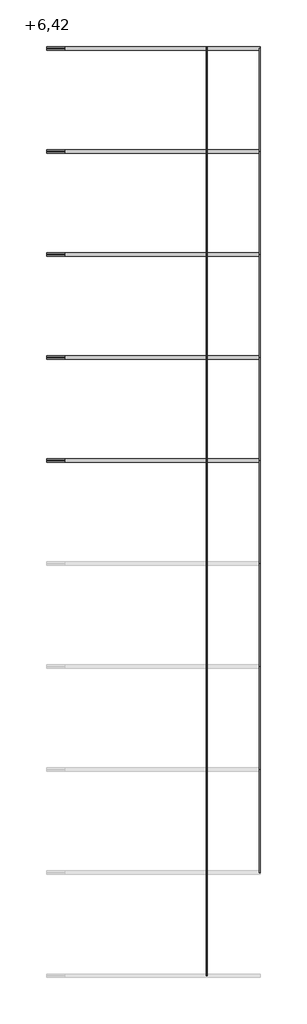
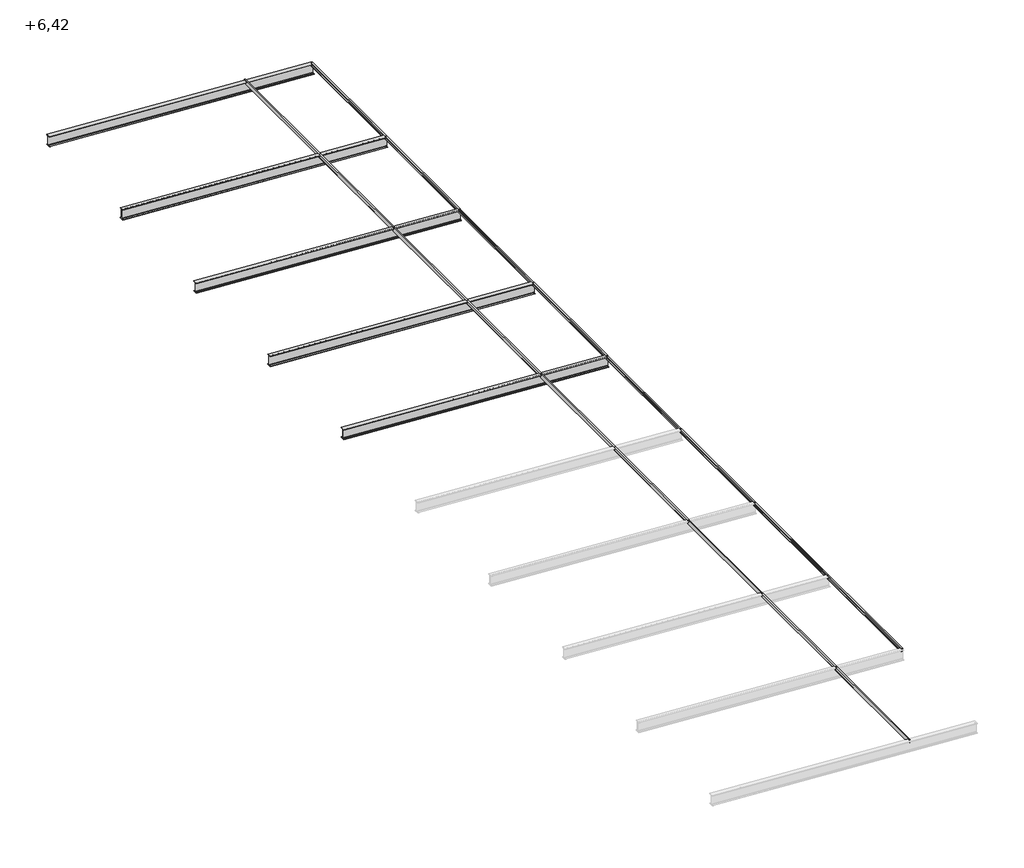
# One storey, part 2 of 2: 22 beams.
"""IFC4 building model written with IfcOpenShell, lengths in millimetres."""

from ifc_helpers import new_model, si_unit, frame, origin, place, context, project, spatial, polyline, ellipse_curve, transform, mapped, element, save
from ifc_brep_helpers import plane_surface, revolved_surface, advanced_brep
from components import c160_6856dfb5, c160_c7498115, c160_33551c21, c160_022745be

model = new_model("IFC4")

# Units and contexts
model_context = context("Model", 3, world=origin())
ifc_project = project(units=[si_unit("LENGTHUNIT", "METRE", prefix="MILLI")], contexts=[model_context])

# Site, building, storey
site = spatial("IfcSite", under=ifc_project)
building = spatial("IfcBuilding", under=site)
storey = spatial("IfcBuildingStorey", under=building, Name="+6,42", Elevation=6424.0)

# Beams
placement = place(None, origin())
c160_shape = c160_6856dfb5(model_context)
element("IfcBeam", 1, ObjectType="RPLN C - Ceowniki normalne : C160", at=placement, inside=storey, context=model_context, shape_type="MappedRepresentation", body=[
    mapped(c160_shape, transform((988.8581153, -33912.4816585, 7071.1642849), x_axis=(0.0, 1.0, 0.0), y_axis=(-0.9981748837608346, 0.0, 0.06038958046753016), z_axis=(0.06038958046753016, 0.0, 0.9981748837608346))),
])
c160_2_shape = c160_c7498115(model_context)
element("IfcBeam", 2, ObjectType="RPLN C - Ceowniki normalne : C160", at=placement, inside=storey, context=model_context, shape_type="MappedRepresentation", body=[
    mapped(c160_2_shape, transform((4109.7867288, 14087.5183415, 6882.3481038), x_axis=(0.0, -1.0, 0.0), y_axis=(0.9981748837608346, 0.0, -0.06038958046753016), z_axis=(0.06038958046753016, 0.0, 0.9981748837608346))),
])
element("IfcBeam", 3, ObjectType="RPLN C - Ceowniki normalne : C160", at=placement, inside=storey, context=model_context, shape_type="MappedRepresentation", body=[
    mapped(c160_shape, transform((988.8581153, -27912.4816585, 7071.1642849), x_axis=(0.0, 1.0, 0.0), y_axis=(-0.9981748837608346, 0.0, 0.06038958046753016), z_axis=(0.06038958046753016, 0.0, 0.9981748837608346))),
])
element("IfcBeam", 4, ObjectType="RPLN C - Ceowniki normalne : C160", at=placement, inside=storey, context=model_context, shape_type="MappedRepresentation", body=[
    mapped(c160_shape, transform((988.8581153, -21912.4816585, 7071.1642849), x_axis=(0.0, 1.0, 0.0), y_axis=(-0.9981748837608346, 0.0, 0.06038958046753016), z_axis=(0.06038958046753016, 0.0, 0.9981748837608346))),
])
element("IfcBeam", 5, ObjectType="RPLN C - Ceowniki normalne : C160", at=placement, inside=storey, context=model_context, shape_type="MappedRepresentation", body=[
    mapped(c160_shape, transform((988.8581153, -15912.4816585, 7071.1642849), x_axis=(0.0, 1.0, 0.0), y_axis=(-0.9981748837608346, 0.0, 0.06038958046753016), z_axis=(0.06038958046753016, 0.0, 0.9981748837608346))),
])
element("IfcBeam", 6, ObjectType="RPLN C - Ceowniki normalne : C160", at=placement, inside=storey, context=model_context, shape_type="MappedRepresentation", body=[
    mapped(c160_shape, transform((988.8581153, -9912.4816585, 7071.1642849), x_axis=(0.0, 1.0, 0.0), y_axis=(-0.9981748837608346, 0.0, 0.06038958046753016), z_axis=(0.06038958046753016, 0.0, 0.9981748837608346))),
])
element("IfcBeam", 7, ObjectType="RPLN C - Ceowniki normalne : C160", at=placement, inside=storey, context=model_context, shape_type="MappedRepresentation", body=[
    mapped(c160_shape, transform((988.8581153, -3912.4816585, 7071.1642849), x_axis=(0.0, 1.0, 0.0), y_axis=(-0.9981748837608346, 0.0, 0.06038958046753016), z_axis=(0.06038958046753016, 0.0, 0.9981748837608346))),
])
element("IfcBeam", 8, ObjectType="RPLN C - Ceowniki normalne : C160", at=placement, inside=storey, context=model_context, shape_type="MappedRepresentation", body=[
    mapped(c160_shape, transform((988.8581153, 2087.5183415, 7071.1642849), x_axis=(0.0, 1.0, 0.0), y_axis=(-0.9981748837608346, 0.0, 0.06038958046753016), z_axis=(0.06038958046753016, 0.0, 0.9981748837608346))),
])
element("IfcBeam", 9, ObjectType="RPLN C - Ceowniki normalne : C160", at=placement, inside=storey, context=model_context, shape_type="MappedRepresentation", body=[
    mapped(c160_shape, transform((988.8581153, 8087.5183415, 7071.1642849), x_axis=(0.0, 1.0, 0.0), y_axis=(-0.9981748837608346, 0.0, 0.06038958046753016), z_axis=(0.06038958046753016, 0.0, 0.9981748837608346))),
])
c160_3_shape = c160_33551c21(model_context)
element("IfcBeam", 10, ObjectType="RPLN C - Ceowniki normalne : C160", at=placement, inside=storey, context=model_context, shape_type="MappedRepresentation", body=[
    mapped(c160_3_shape, transform((4109.7867288, -27912.4816585, 6882.3481038), x_axis=(0.0, -1.0, 0.0), y_axis=(0.9981748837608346, 0.0, -0.06038958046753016), z_axis=(0.06038958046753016, 0.0, 0.9981748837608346))),
])
element("IfcBeam", 11, ObjectType="RPLN C - Ceowniki normalne : C160", at=placement, inside=storey, context=model_context, shape_type="MappedRepresentation", body=[
    mapped(c160_3_shape, transform((4109.7867288, -21912.4816585, 6882.3481038), x_axis=(0.0, -1.0, 0.0), y_axis=(0.9981748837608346, 0.0, -0.06038958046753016), z_axis=(0.06038958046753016, 0.0, 0.9981748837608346))),
])
element("IfcBeam", 12, ObjectType="RPLN C - Ceowniki normalne : C160", at=placement, inside=storey, context=model_context, shape_type="MappedRepresentation", body=[
    mapped(c160_3_shape, transform((4109.7867288, -15912.4816585, 6882.3481038), x_axis=(0.0, -1.0, 0.0), y_axis=(0.9981748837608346, 0.0, -0.06038958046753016), z_axis=(0.06038958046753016, 0.0, 0.9981748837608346))),
])
element("IfcBeam", 13, ObjectType="RPLN C - Ceowniki normalne : C160", at=placement, inside=storey, context=model_context, shape_type="MappedRepresentation", body=[
    mapped(c160_3_shape, transform((4109.7867288, -9912.4816585, 6882.3481038), x_axis=(0.0, -1.0, 0.0), y_axis=(0.9981748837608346, 0.0, -0.06038958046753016), z_axis=(0.06038958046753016, 0.0, 0.9981748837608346))),
])
element("IfcBeam", 14, ObjectType="RPLN C - Ceowniki normalne : C160", at=placement, inside=storey, context=model_context, shape_type="MappedRepresentation", body=[
    mapped(c160_3_shape, transform((4109.7867288, -3912.4816585, 6882.3481038), x_axis=(0.0, -1.0, 0.0), y_axis=(0.9981748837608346, 0.0, -0.06038958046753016), z_axis=(0.06038958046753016, 0.0, 0.9981748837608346))),
])
element("IfcBeam", 15, ObjectType="RPLN C - Ceowniki normalne : C160", at=placement, inside=storey, context=model_context, shape_type="MappedRepresentation", body=[
    mapped(c160_3_shape, transform((4109.7867288, 2087.5183415, 6882.3481038), x_axis=(0.0, -1.0, 0.0), y_axis=(0.9981748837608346, 0.0, -0.06038958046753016), z_axis=(0.06038958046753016, 0.0, 0.9981748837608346))),
])
element("IfcBeam", 16, ObjectType="RPLN C - Ceowniki normalne : C160", at=placement, inside=storey, context=model_context, shape_type="MappedRepresentation", body=[
    mapped(c160_3_shape, transform((4109.7867288, 8087.5183415, 6882.3481038), x_axis=(0.0, -1.0, 0.0), y_axis=(0.9981748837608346, 0.0, -0.06038958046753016), z_axis=(0.06038958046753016, 0.0, 0.9981748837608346))),
])
c160_4_shape = c160_022745be(model_context)
element("IfcBeam", 17, ObjectType="RPLN C - Ceowniki normalne : C160", at=placement, inside=storey, context=model_context, shape_type="MappedRepresentation", body=[
    mapped(c160_4_shape, transform((988.8581153, 14087.5183415, 7071.1642849), x_axis=(0.0, 1.0, 0.0), y_axis=(-0.9981748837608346, 0.0, 0.06038958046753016), z_axis=(0.06038958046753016, 0.0, 0.9981748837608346))),
])
element("IfcBeam", 18, ObjectType="RPLN IPE - Dwuteowniki równoległościenne : I500PE", at=placement, inside=storey, context=model_context, shape_type="AdvancedBrep", body=[
    advanced_brep(
    [(-8321.7766659, -6886.3816585, 7205.3745626), (-8321.7766659, -6812.4816585, 7205.3745626), (-8321.7740086, -6812.4816585, 7189.3451466), (-8321.7740086, -7012.4816585, 7189.3451466), (-8321.7766659, -7012.4816585, 7205.3745626), (-8321.7766659, -6938.5816585, 7205.3745626), (-8321.7801535, -6917.5816585, 7226.4131711), (-8321.8509032, -6917.5816585, 7653.1963726), (-8321.8543908, -6938.5816585, 7674.2349812), (-8321.8543908, -7012.4816585, 7674.2349812), (-8321.8570481, -7012.4816585, 7690.2643972), (-8321.8570481, -6812.4816585, 7690.2643972), (-8321.8543908, -6812.4816585, 7674.2349812), (-8321.8543908, -6886.3816585, 7674.2349812), (-8321.8509032, -6907.3816585, 7653.1963726), (-8321.7801535, -6907.3816585, 7226.4131711), (4132.9926321, -6812.4816585, 6451.8610201), (4132.9926321, -6886.3816585, 6451.8610201), (4132.9926321, -6907.3816585, 6472.8994176), (4132.9926321, -6907.3816585, 6899.6783387), (4132.9926321, -6886.3816585, 6920.7167363), (4132.9926321, -6812.4816585, 6920.7167363), (4132.9926321, -6812.4816585, 6936.7459915), (4132.9926321, -7012.4816585, 6936.7459915), (4132.9926321, -7012.4816585, 6920.7167363), (4132.9926321, -6938.5816585, 6920.7167363), (4132.9926321, -6917.5816585, 6899.6783387), (4132.9926321, -6917.5816585, 6472.8994176), (4132.9926321, -6938.5816585, 6451.8610201), (4132.9926321, -7012.4816585, 6451.8610201), (4132.9926321, -7012.4816585, 6435.8317648), (4132.9926321, -6812.4816585, 6435.8317648)],
    [
        (0, 1),
        (1, 2),
        (2, 3),
        (3, 4),
        (4, 5),
        (5, 6, ellipse_curve(frame((-8321.7801535, -6938.5816585, 7226.4131711), z_axis=(0.9999999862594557, 0.0, 0.0001657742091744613), x_axis=(-0.00016577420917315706, 0.0, 0.9999999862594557)), 21.0386088, 21.0)),
        (6, 7),
        (7, 8, ellipse_curve(frame((-8321.8509032, -6938.5816585, 7653.1963726), z_axis=(0.9999999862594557, 0.0, 0.0001657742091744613), x_axis=(-0.00016577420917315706, 0.0, 0.9999999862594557)), 21.0386088, 21.0)),
        (8, 9),
        (9, 10),
        (10, 11),
        (11, 12),
        (12, 13),
        (13, 14, ellipse_curve(frame((-8321.8509032, -6886.3816585, 7653.1963726), z_axis=(0.9999999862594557, 0.0, 0.0001657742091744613), x_axis=(-0.00016577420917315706, 0.0, 0.9999999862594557)), 21.0386088, 21.0)),
        (14, 15),
        (15, 0, ellipse_curve(frame((-8321.7801535, -6886.3816585, 7226.4131711), z_axis=(0.9999999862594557, 0.0, 0.0001657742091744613), x_axis=(-0.00016577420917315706, 0.0, 0.9999999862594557)), 21.0386088, 21.0)),
        (16, 17),
        (17, 18, ellipse_curve(frame((4132.9926321, -6886.3816585, 6472.8994176), z_axis=(-1.0, 0.0, 0.0), x_axis=(0.0, 0.0, 0.9999999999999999)), 21.0383975, 21.0)),
        (18, 19),
        (19, 20, ellipse_curve(frame((4132.9926321, -6886.3816585, 6899.6783387), z_axis=(-1.0, 0.0, 0.0), x_axis=(0.0, 0.0, 0.9999999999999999)), 21.0383975, 21.0)),
        (20, 21),
        (21, 22),
        (22, 23),
        (23, 24),
        (24, 25),
        (25, 26, ellipse_curve(frame((4132.9926321, -6938.5816585, 6899.6783387), z_axis=(-1.0, 0.0, 0.0), x_axis=(0.0, 0.0, 0.9999999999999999)), 21.0383975, 21.0)),
        (26, 27),
        (27, 28, ellipse_curve(frame((4132.9926321, -6938.5816585, 6472.8994176), z_axis=(-1.0, 0.0, 0.0), x_axis=(0.0, 0.0, 0.9999999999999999)), 21.0383975, 21.0)),
        (28, 29),
        (29, 30),
        (30, 31),
        (31, 16),
        (16, 1),
        (0, 17),
        (31, 2),
        (30, 3),
        (29, 4),
        (28, 5),
        (27, 6),
        (26, 7),
        (25, 8),
        (24, 9),
        (23, 10),
        (22, 11),
        (21, 12),
        (20, 13),
        (19, 14),
        (18, 15),
    ],
    [
        plane_surface(frame((-8321.6398386, -36912.4816585, 6379.9913475), z_axis=(-0.9999999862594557, 0.0, -0.0001657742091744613), x_axis=(0.0001657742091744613, 0.0, -0.9999999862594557))),
        plane_surface(frame((4132.9926321, -36912.4816585, 6983.0025864), z_axis=(1.0, 0.0, 0.0), x_axis=(0.0, 0.0, 1.0))),
        plane_surface(frame((4227.795571, -6812.4816585, 6446.1254423), z_axis=(0.06038958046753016, 0.0, 0.9981748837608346), x_axis=(-0.9981748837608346, 0.0, 0.06038958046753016))),
        plane_surface(frame((4226.8293377, -6812.4816585, 6430.1546441), z_axis=(0.0, 1.0, 0.0), x_axis=(-0.9981748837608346, 0.0, 0.06038958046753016))),
        plane_surface(frame((4226.8293377, -7012.4816585, 6430.1546441), z_axis=(-0.06038958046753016, 0.0, -0.9981748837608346), x_axis=(-0.9981748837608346, 0.0, 0.06038958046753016))),
        plane_surface(frame((4227.795571, -7012.4816585, 6446.1254423), z_axis=(0.0, -1.0, 0.0), x_axis=(-0.9981748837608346, 0.0, 0.06038958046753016))),
        plane_surface(frame((4227.795571, -6938.5816585, 6446.1254423), z_axis=(0.06038958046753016, 0.0, 0.9981748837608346), x_axis=(-0.9981748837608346, 0.0, 0.06038958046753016))),
        revolved_surface(polyline([(-8323.051822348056, -6959.5816585, 7226.490107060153), (4134.260813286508, -6959.5816585, 6472.822692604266)]), (4229.0637522, -6938.5816585, 6467.0871148), (-0.9981748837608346, 0.0, 0.06038958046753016)),
        plane_surface(frame((4254.7897134, -6917.5816585, 6892.3096153), z_axis=(0.0, -1.0, 0.0), x_axis=(-0.9981748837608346, 0.0, 0.06038958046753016))),
        revolved_surface(polyline([(-8323.122572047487, -6959.5816585, 7653.273308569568), (4134.260813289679, -6959.5816585, 6899.601613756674)]), (4254.7897134, -6938.5816585, 6892.3096153), (-0.9981748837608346, 0.0, 0.06038958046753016)),
        plane_surface(frame((4256.0578946, -7012.4816585, 6913.2712879), z_axis=(-0.06038958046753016, 0.0, -0.9981748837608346), x_axis=(-0.9981748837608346, 0.0, 0.06038958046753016))),
        plane_surface(frame((4257.0241279, -7012.4816585, 6929.242086), z_axis=(0.0, -1.0, 0.0), x_axis=(-0.9981748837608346, 0.0, 0.06038958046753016))),
        plane_surface(frame((4257.0241279, -6812.4816585, 6929.242086), z_axis=(0.06038958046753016, 0.0, 0.9981748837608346), x_axis=(-0.9981748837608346, 0.0, 0.06038958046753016))),
        plane_surface(frame((4256.0578946, -6812.4816585, 6913.2712879), z_axis=(0.0, 1.0, 0.0), x_axis=(-0.9981748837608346, 0.0, 0.06038958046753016))),
        plane_surface(frame((4256.0578946, -6886.3816585, 6913.2712879), z_axis=(-0.06038958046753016, 0.0, -0.9981748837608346), x_axis=(-0.9981748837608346, 0.0, 0.06038958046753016))),
        revolved_surface(polyline([(-8323.122572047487, -6907.3816585, 7653.273308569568), (4134.260813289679, -6907.3816585, 6899.601613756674)]), (4254.7897134, -6886.3816585, 6892.3096153), (-0.9981748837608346, 0.0, 0.06038958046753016)),
        plane_surface(frame((4229.0637522, -6907.3816585, 6467.0871148), z_axis=(0.0, 1.0, 0.0), x_axis=(-0.9981748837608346, 0.0, 0.06038958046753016))),
        revolved_surface(polyline([(-8323.051822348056, -6907.3816585, 7226.490107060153), (4134.260813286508, -6907.3816585, 6472.822692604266)]), (4229.0637522, -6886.3816585, 6467.0871148), (-0.9981748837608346, 0.0, 0.06038958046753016)),
    ],
    [
        (0, [[1, 2, 3, 4, 5, 6, 7, 8, 9, 10, 11, 12, 13, 14, 15, 16]]),
        (1, [[17, 18, 19, 20, 21, 22, 23, 24, 25, 26, 27, 28, 29, 30, 31, 32]]),
        (2, [[33, -1, 34, -17]]),
        (3, [[35, -2, -33, -32]]),
        (4, [[36, -3, -35, -31]]),
        (5, [[37, -4, -36, -30]]),
        (6, [[38, -5, -37, -29]]),
        (7, [[39, -6, -38, -28]]),
        (8, [[40, -7, -39, -27]]),
        (9, [[41, -8, -40, -26]]),
        (10, [[42, -9, -41, -25]]),
        (11, [[43, -10, -42, -24]]),
        (12, [[44, -11, -43, -23]]),
        (13, [[45, -12, -44, -22]]),
        (14, [[46, -13, -45, -21]]),
        (15, [[47, -14, -46, -20]]),
        (16, [[48, -15, -47, -19]]),
        (17, [[-34, -16, -48, -18]]),
    ],
),
])
element("IfcBeam", 19, ObjectType="RPLN IPE - Dwuteowniki równoległościenne : I500PE", at=placement, inside=storey, context=model_context, shape_type="AdvancedBrep", body=[
    advanced_brep(
    [(-8321.7766659, -886.3816585, 7205.3745626), (-8321.7766659, -812.4816585, 7205.3745626), (-8321.7740086, -812.4816585, 7189.3451466), (-8321.7740086, -1012.4816585, 7189.3451466), (-8321.7766659, -1012.4816585, 7205.3745626), (-8321.7766659, -938.5816585, 7205.3745626), (-8321.7801535, -917.5816585, 7226.4131711), (-8321.8509032, -917.5816585, 7653.1963726), (-8321.8543908, -938.5816585, 7674.2349812), (-8321.8543908, -1012.4816585, 7674.2349812), (-8321.8570481, -1012.4816585, 7690.2643972), (-8321.8570481, -812.4816585, 7690.2643972), (-8321.8543908, -812.4816585, 7674.2349812), (-8321.8543908, -886.3816585, 7674.2349812), (-8321.8509032, -907.3816585, 7653.1963726), (-8321.7801535, -907.3816585, 7226.4131711), (4132.9926321, -812.4816585, 6451.8610201), (4132.9926321, -886.3816585, 6451.8610201), (4132.9926321, -907.3816585, 6472.8994176), (4132.9926321, -907.3816585, 6899.6783387), (4132.9926321, -886.3816585, 6920.7167363), (4132.9926321, -812.4816585, 6920.7167363), (4132.9926321, -812.4816585, 6936.7459915), (4132.9926321, -1012.4816585, 6936.7459915), (4132.9926321, -1012.4816585, 6920.7167363), (4132.9926321, -938.5816585, 6920.7167363), (4132.9926321, -917.5816585, 6899.6783387), (4132.9926321, -917.5816585, 6472.8994176), (4132.9926321, -938.5816585, 6451.8610201), (4132.9926321, -1012.4816585, 6451.8610201), (4132.9926321, -1012.4816585, 6435.8317648), (4132.9926321, -812.4816585, 6435.8317648)],
    [
        (0, 1),
        (1, 2),
        (2, 3),
        (3, 4),
        (4, 5),
        (5, 6, ellipse_curve(frame((-8321.7801535, -938.5816585, 7226.4131711), z_axis=(0.9999999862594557, 0.0, 0.0001657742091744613), x_axis=(-0.00016577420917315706, 0.0, 0.9999999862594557)), 21.0386088, 21.0)),
        (6, 7),
        (7, 8, ellipse_curve(frame((-8321.8509032, -938.5816585, 7653.1963726), z_axis=(0.9999999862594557, 0.0, 0.0001657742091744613), x_axis=(-0.00016577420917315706, 0.0, 0.9999999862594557)), 21.0386088, 21.0)),
        (8, 9),
        (9, 10),
        (10, 11),
        (11, 12),
        (12, 13),
        (13, 14, ellipse_curve(frame((-8321.8509032, -886.3816585, 7653.1963726), z_axis=(0.9999999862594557, 0.0, 0.0001657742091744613), x_axis=(-0.00016577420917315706, 0.0, 0.9999999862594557)), 21.0386088, 21.0)),
        (14, 15),
        (15, 0, ellipse_curve(frame((-8321.7801535, -886.3816585, 7226.4131711), z_axis=(0.9999999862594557, 0.0, 0.0001657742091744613), x_axis=(-0.00016577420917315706, 0.0, 0.9999999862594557)), 21.0386088, 21.0)),
        (16, 17),
        (17, 18, ellipse_curve(frame((4132.9926321, -886.3816585, 6472.8994176), z_axis=(-1.0, 0.0, 0.0), x_axis=(0.0, 0.0, 0.9999999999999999)), 21.0383975, 21.0)),
        (18, 19),
        (19, 20, ellipse_curve(frame((4132.9926321, -886.3816585, 6899.6783387), z_axis=(-1.0, 0.0, 0.0), x_axis=(0.0, 0.0, 0.9999999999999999)), 21.0383975, 21.0)),
        (20, 21),
        (21, 22),
        (22, 23),
        (23, 24),
        (24, 25),
        (25, 26, ellipse_curve(frame((4132.9926321, -938.5816585, 6899.6783387), z_axis=(-1.0, 0.0, 0.0), x_axis=(0.0, 0.0, 0.9999999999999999)), 21.0383975, 21.0)),
        (26, 27),
        (27, 28, ellipse_curve(frame((4132.9926321, -938.5816585, 6472.8994176), z_axis=(-1.0, 0.0, 0.0), x_axis=(0.0, 0.0, 0.9999999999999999)), 21.0383975, 21.0)),
        (28, 29),
        (29, 30),
        (30, 31),
        (31, 16),
        (16, 1),
        (0, 17),
        (31, 2),
        (30, 3),
        (29, 4),
        (28, 5),
        (27, 6),
        (26, 7),
        (25, 8),
        (24, 9),
        (23, 10),
        (22, 11),
        (21, 12),
        (20, 13),
        (19, 14),
        (18, 15),
    ],
    [
        plane_surface(frame((-8321.6398386, -36912.4816585, 6379.9913475), z_axis=(-0.9999999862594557, 0.0, -0.0001657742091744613), x_axis=(0.0001657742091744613, 0.0, -0.9999999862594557))),
        plane_surface(frame((4132.9926321, -36912.4816585, 6983.0025864), z_axis=(1.0, 0.0, 0.0), x_axis=(0.0, 0.0, 1.0))),
        plane_surface(frame((4227.795571, -812.4816585, 6446.1254423), z_axis=(0.06038958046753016, 0.0, 0.9981748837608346), x_axis=(-0.9981748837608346, 0.0, 0.06038958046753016))),
        plane_surface(frame((4226.8293377, -812.4816585, 6430.1546441), z_axis=(0.0, 1.0, 0.0), x_axis=(-0.9981748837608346, 0.0, 0.06038958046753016))),
        plane_surface(frame((4226.8293377, -1012.4816585, 6430.1546441), z_axis=(-0.06038958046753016, 0.0, -0.9981748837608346), x_axis=(-0.9981748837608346, 0.0, 0.06038958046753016))),
        plane_surface(frame((4227.795571, -1012.4816585, 6446.1254423), z_axis=(0.0, -1.0, 0.0), x_axis=(-0.9981748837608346, 0.0, 0.06038958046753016))),
        plane_surface(frame((4227.795571, -938.5816585, 6446.1254423), z_axis=(0.06038958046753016, 0.0, 0.9981748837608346), x_axis=(-0.9981748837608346, 0.0, 0.06038958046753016))),
        revolved_surface(polyline([(-8323.051822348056, -959.5816585, 7226.490107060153), (4134.260813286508, -959.5816585, 6472.822692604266)]), (4229.0637522, -938.5816585, 6467.0871148), (-0.9981748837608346, 0.0, 0.06038958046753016)),
        plane_surface(frame((4254.7897134, -917.5816585, 6892.3096153), z_axis=(0.0, -1.0, 0.0), x_axis=(-0.9981748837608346, 0.0, 0.06038958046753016))),
        revolved_surface(polyline([(-8323.122572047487, -959.5816585, 7653.273308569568), (4134.260813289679, -959.5816585, 6899.601613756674)]), (4254.7897134, -938.5816585, 6892.3096153), (-0.9981748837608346, 0.0, 0.06038958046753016)),
        plane_surface(frame((4256.0578946, -1012.4816585, 6913.2712879), z_axis=(-0.06038958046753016, 0.0, -0.9981748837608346), x_axis=(-0.9981748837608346, 0.0, 0.06038958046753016))),
        plane_surface(frame((4257.0241279, -1012.4816585, 6929.242086), z_axis=(0.0, -1.0, 0.0), x_axis=(-0.9981748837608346, 0.0, 0.06038958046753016))),
        plane_surface(frame((4257.0241279, -812.4816585, 6929.242086), z_axis=(0.06038958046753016, 0.0, 0.9981748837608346), x_axis=(-0.9981748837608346, 0.0, 0.06038958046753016))),
        plane_surface(frame((4256.0578946, -812.4816585, 6913.2712879), z_axis=(0.0, 1.0, 0.0), x_axis=(-0.9981748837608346, 0.0, 0.06038958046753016))),
        plane_surface(frame((4256.0578946, -886.3816585, 6913.2712879), z_axis=(-0.06038958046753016, 0.0, -0.9981748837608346), x_axis=(-0.9981748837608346, 0.0, 0.06038958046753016))),
        revolved_surface(polyline([(-8323.122572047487, -907.3816585, 7653.273308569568), (4134.260813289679, -907.3816585, 6899.601613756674)]), (4254.7897134, -886.3816585, 6892.3096153), (-0.9981748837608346, 0.0, 0.06038958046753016)),
        plane_surface(frame((4229.0637522, -907.3816585, 6467.0871148), z_axis=(0.0, 1.0, 0.0), x_axis=(-0.9981748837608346, 0.0, 0.06038958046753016))),
        revolved_surface(polyline([(-8323.051822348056, -907.3816585, 7226.490107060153), (4134.260813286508, -907.3816585, 6472.822692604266)]), (4229.0637522, -886.3816585, 6467.0871148), (-0.9981748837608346, 0.0, 0.06038958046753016)),
    ],
    [
        (0, [[1, 2, 3, 4, 5, 6, 7, 8, 9, 10, 11, 12, 13, 14, 15, 16]]),
        (1, [[17, 18, 19, 20, 21, 22, 23, 24, 25, 26, 27, 28, 29, 30, 31, 32]]),
        (2, [[33, -1, 34, -17]]),
        (3, [[35, -2, -33, -32]]),
        (4, [[36, -3, -35, -31]]),
        (5, [[37, -4, -36, -30]]),
        (6, [[38, -5, -37, -29]]),
        (7, [[39, -6, -38, -28]]),
        (8, [[40, -7, -39, -27]]),
        (9, [[41, -8, -40, -26]]),
        (10, [[42, -9, -41, -25]]),
        (11, [[43, -10, -42, -24]]),
        (12, [[44, -11, -43, -23]]),
        (13, [[45, -12, -44, -22]]),
        (14, [[46, -13, -45, -21]]),
        (15, [[47, -14, -46, -20]]),
        (16, [[48, -15, -47, -19]]),
        (17, [[-34, -16, -48, -18]]),
    ],
),
])
element("IfcBeam", 20, ObjectType="RPLN IPE - Dwuteowniki równoległościenne : I500PE", at=placement, inside=storey, context=model_context, shape_type="AdvancedBrep", body=[
    advanced_brep(
    [(-8321.7766659, 5113.6183415, 7205.3745626), (-8321.7766659, 5187.5183415, 7205.3745626), (-8321.7740086, 5187.5183415, 7189.3451466), (-8321.7740086, 4987.5183415, 7189.3451466), (-8321.7766659, 4987.5183415, 7205.3745626), (-8321.7766659, 5061.4183415, 7205.3745626), (-8321.7801535, 5082.4183415, 7226.4131711), (-8321.8509032, 5082.4183415, 7653.1963726), (-8321.8543908, 5061.4183415, 7674.2349812), (-8321.8543908, 4987.5183415, 7674.2349812), (-8321.8570481, 4987.5183415, 7690.2643972), (-8321.8570481, 5187.5183415, 7690.2643972), (-8321.8543908, 5187.5183415, 7674.2349812), (-8321.8543908, 5113.6183415, 7674.2349812), (-8321.8509032, 5092.6183415, 7653.1963726), (-8321.7801535, 5092.6183415, 7226.4131711), (4132.9926321, 5187.5183415, 6451.8610201), (4132.9926321, 5113.6183415, 6451.8610201), (4132.9926321, 5092.6183415, 6472.8994176), (4132.9926321, 5092.6183415, 6899.6783387), (4132.9926321, 5113.6183415, 6920.7167363), (4132.9926321, 5187.5183415, 6920.7167363), (4132.9926321, 5187.5183415, 6936.7459915), (4132.9926321, 4987.5183415, 6936.7459915), (4132.9926321, 4987.5183415, 6920.7167363), (4132.9926321, 5061.4183415, 6920.7167363), (4132.9926321, 5082.4183415, 6899.6783387), (4132.9926321, 5082.4183415, 6472.8994176), (4132.9926321, 5061.4183415, 6451.8610201), (4132.9926321, 4987.5183415, 6451.8610201), (4132.9926321, 4987.5183415, 6435.8317648), (4132.9926321, 5187.5183415, 6435.8317648)],
    [
        (0, 1),
        (1, 2),
        (2, 3),
        (3, 4),
        (4, 5),
        (5, 6, ellipse_curve(frame((-8321.7801535, 5061.4183415, 7226.4131711), z_axis=(0.9999999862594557, 0.0, 0.0001657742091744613), x_axis=(-0.00016577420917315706, 0.0, 0.9999999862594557)), 21.0386088, 21.0)),
        (6, 7),
        (7, 8, ellipse_curve(frame((-8321.8509032, 5061.4183415, 7653.1963726), z_axis=(0.9999999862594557, 0.0, 0.0001657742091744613), x_axis=(-0.00016577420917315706, 0.0, 0.9999999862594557)), 21.0386088, 21.0)),
        (8, 9),
        (9, 10),
        (10, 11),
        (11, 12),
        (12, 13),
        (13, 14, ellipse_curve(frame((-8321.8509032, 5113.6183415, 7653.1963726), z_axis=(0.9999999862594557, 0.0, 0.0001657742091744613), x_axis=(-0.00016577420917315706, 0.0, 0.9999999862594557)), 21.0386088, 21.0)),
        (14, 15),
        (15, 0, ellipse_curve(frame((-8321.7801535, 5113.6183415, 7226.4131711), z_axis=(0.9999999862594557, 0.0, 0.0001657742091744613), x_axis=(-0.00016577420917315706, 0.0, 0.9999999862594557)), 21.0386088, 21.0)),
        (16, 17),
        (17, 18, ellipse_curve(frame((4132.9926321, 5113.6183415, 6472.8994176), z_axis=(-1.0, 0.0, 0.0), x_axis=(0.0, 0.0, 0.9999999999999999)), 21.0383975, 21.0)),
        (18, 19),
        (19, 20, ellipse_curve(frame((4132.9926321, 5113.6183415, 6899.6783387), z_axis=(-1.0, 0.0, 0.0), x_axis=(0.0, 0.0, 0.9999999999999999)), 21.0383975, 21.0)),
        (20, 21),
        (21, 22),
        (22, 23),
        (23, 24),
        (24, 25),
        (25, 26, ellipse_curve(frame((4132.9926321, 5061.4183415, 6899.6783387), z_axis=(-1.0, 0.0, 0.0), x_axis=(0.0, 0.0, 0.9999999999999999)), 21.0383975, 21.0)),
        (26, 27),
        (27, 28, ellipse_curve(frame((4132.9926321, 5061.4183415, 6472.8994176), z_axis=(-1.0, 0.0, 0.0), x_axis=(0.0, 0.0, 0.9999999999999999)), 21.0383975, 21.0)),
        (28, 29),
        (29, 30),
        (30, 31),
        (31, 16),
        (16, 1),
        (0, 17),
        (31, 2),
        (30, 3),
        (29, 4),
        (28, 5),
        (27, 6),
        (26, 7),
        (25, 8),
        (24, 9),
        (23, 10),
        (22, 11),
        (21, 12),
        (20, 13),
        (19, 14),
        (18, 15),
    ],
    [
        plane_surface(frame((-8321.6398386, -36912.4816585, 6379.9913475), z_axis=(-0.9999999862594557, 0.0, -0.0001657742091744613), x_axis=(0.0001657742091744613, 0.0, -0.9999999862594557))),
        plane_surface(frame((4132.9926321, -36912.4816585, 6983.0025864), z_axis=(1.0, 0.0, 0.0), x_axis=(0.0, 0.0, 1.0))),
        plane_surface(frame((4227.795571, 5187.5183415, 6446.1254423), z_axis=(0.06038958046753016, 0.0, 0.9981748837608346), x_axis=(-0.9981748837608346, 0.0, 0.06038958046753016))),
        plane_surface(frame((4226.8293377, 5187.5183415, 6430.1546441), z_axis=(0.0, 1.0, 0.0), x_axis=(-0.9981748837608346, 0.0, 0.06038958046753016))),
        plane_surface(frame((4226.8293377, 4987.5183415, 6430.1546441), z_axis=(-0.06038958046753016, 0.0, -0.9981748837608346), x_axis=(-0.9981748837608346, 0.0, 0.06038958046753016))),
        plane_surface(frame((4227.795571, 4987.5183415, 6446.1254423), z_axis=(0.0, -1.0, 0.0), x_axis=(-0.9981748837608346, 0.0, 0.06038958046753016))),
        plane_surface(frame((4227.795571, 5061.4183415, 6446.1254423), z_axis=(0.06038958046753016, 0.0, 0.9981748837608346), x_axis=(-0.9981748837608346, 0.0, 0.06038958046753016))),
        revolved_surface(polyline([(-8323.051822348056, 5040.4183415, 7226.490107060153), (4134.260813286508, 5040.4183415, 6472.822692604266)]), (4229.0637522, 5061.4183415, 6467.0871148), (-0.9981748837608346, 0.0, 0.06038958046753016)),
        plane_surface(frame((4254.7897134, 5082.4183415, 6892.3096153), z_axis=(0.0, -1.0, 0.0), x_axis=(-0.9981748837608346, 0.0, 0.06038958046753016))),
        revolved_surface(polyline([(-8323.122572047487, 5040.4183415, 7653.273308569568), (4134.260813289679, 5040.4183415, 6899.601613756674)]), (4254.7897134, 5061.4183415, 6892.3096153), (-0.9981748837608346, 0.0, 0.06038958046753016)),
        plane_surface(frame((4256.0578946, 4987.5183415, 6913.2712879), z_axis=(-0.06038958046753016, 0.0, -0.9981748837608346), x_axis=(-0.9981748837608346, 0.0, 0.06038958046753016))),
        plane_surface(frame((4257.0241279, 4987.5183415, 6929.242086), z_axis=(0.0, -1.0, 0.0), x_axis=(-0.9981748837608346, 0.0, 0.06038958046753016))),
        plane_surface(frame((4257.0241279, 5187.5183415, 6929.242086), z_axis=(0.06038958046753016, 0.0, 0.9981748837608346), x_axis=(-0.9981748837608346, 0.0, 0.06038958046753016))),
        plane_surface(frame((4256.0578946, 5187.5183415, 6913.2712879), z_axis=(0.0, 1.0, 0.0), x_axis=(-0.9981748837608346, 0.0, 0.06038958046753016))),
        plane_surface(frame((4256.0578946, 5113.6183415, 6913.2712879), z_axis=(-0.06038958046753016, 0.0, -0.9981748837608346), x_axis=(-0.9981748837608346, 0.0, 0.06038958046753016))),
        revolved_surface(polyline([(-8323.122572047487, 5092.6183415, 7653.273308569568), (4134.260813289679, 5092.6183415, 6899.601613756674)]), (4254.7897134, 5113.6183415, 6892.3096153), (-0.9981748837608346, 0.0, 0.06038958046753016)),
        plane_surface(frame((4229.0637522, 5092.6183415, 6467.0871148), z_axis=(0.0, 1.0, 0.0), x_axis=(-0.9981748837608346, 0.0, 0.06038958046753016))),
        revolved_surface(polyline([(-8323.051822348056, 5092.6183415, 7226.490107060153), (4134.260813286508, 5092.6183415, 6472.822692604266)]), (4229.0637522, 5113.6183415, 6467.0871148), (-0.9981748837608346, 0.0, 0.06038958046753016)),
    ],
    [
        (0, [[1, 2, 3, 4, 5, 6, 7, 8, 9, 10, 11, 12, 13, 14, 15, 16]]),
        (1, [[17, 18, 19, 20, 21, 22, 23, 24, 25, 26, 27, 28, 29, 30, 31, 32]]),
        (2, [[33, -1, 34, -17]]),
        (3, [[35, -2, -33, -32]]),
        (4, [[36, -3, -35, -31]]),
        (5, [[37, -4, -36, -30]]),
        (6, [[38, -5, -37, -29]]),
        (7, [[39, -6, -38, -28]]),
        (8, [[40, -7, -39, -27]]),
        (9, [[41, -8, -40, -26]]),
        (10, [[42, -9, -41, -25]]),
        (11, [[43, -10, -42, -24]]),
        (12, [[44, -11, -43, -23]]),
        (13, [[45, -12, -44, -22]]),
        (14, [[46, -13, -45, -21]]),
        (15, [[47, -14, -46, -20]]),
        (16, [[48, -15, -47, -19]]),
        (17, [[-34, -16, -48, -18]]),
    ],
),
])
element("IfcBeam", 21, ObjectType="RPLN IPE - Dwuteowniki równoległościenne : I500PE", at=placement, inside=storey, context=model_context, shape_type="AdvancedBrep", body=[
    advanced_brep(
    [(-8321.7766659, 11113.6183415, 7205.3745626), (-8321.7766659, 11187.5183415, 7205.3745626), (-8321.7740086, 11187.5183415, 7189.3451466), (-8321.7740086, 10987.5183415, 7189.3451466), (-8321.7766659, 10987.5183415, 7205.3745626), (-8321.7766659, 11061.4183415, 7205.3745626), (-8321.7801535, 11082.4183415, 7226.4131711), (-8321.8509032, 11082.4183415, 7653.1963726), (-8321.8543908, 11061.4183415, 7674.2349812), (-8321.8543908, 10987.5183415, 7674.2349812), (-8321.8570481, 10987.5183415, 7690.2643972), (-8321.8570481, 11187.5183415, 7690.2643972), (-8321.8543908, 11187.5183415, 7674.2349812), (-8321.8543908, 11113.6183415, 7674.2349812), (-8321.8509032, 11092.6183415, 7653.1963726), (-8321.7801535, 11092.6183415, 7226.4131711), (4132.9926321, 11187.5183415, 6451.8610201), (4132.9926321, 11113.6183415, 6451.8610201), (4132.9926321, 11092.6183415, 6472.8994176), (4132.9926321, 11092.6183415, 6899.6783387), (4132.9926321, 11113.6183415, 6920.7167363), (4132.9926321, 11187.5183415, 6920.7167363), (4132.9926321, 11187.5183415, 6936.7459915), (4132.9926321, 10987.5183415, 6936.7459915), (4132.9926321, 10987.5183415, 6920.7167363), (4132.9926321, 11061.4183415, 6920.7167363), (4132.9926321, 11082.4183415, 6899.6783387), (4132.9926321, 11082.4183415, 6472.8994176), (4132.9926321, 11061.4183415, 6451.8610201), (4132.9926321, 10987.5183415, 6451.8610201), (4132.9926321, 10987.5183415, 6435.8317648), (4132.9926321, 11187.5183415, 6435.8317648)],
    [
        (0, 1),
        (1, 2),
        (2, 3),
        (3, 4),
        (4, 5),
        (5, 6, ellipse_curve(frame((-8321.7801535, 11061.4183415, 7226.4131711), z_axis=(0.9999999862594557, 0.0, 0.0001657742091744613), x_axis=(-0.00016577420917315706, 0.0, 0.9999999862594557)), 21.0386088, 21.0)),
        (6, 7),
        (7, 8, ellipse_curve(frame((-8321.8509032, 11061.4183415, 7653.1963726), z_axis=(0.9999999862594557, 0.0, 0.0001657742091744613), x_axis=(-0.00016577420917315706, 0.0, 0.9999999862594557)), 21.0386088, 21.0)),
        (8, 9),
        (9, 10),
        (10, 11),
        (11, 12),
        (12, 13),
        (13, 14, ellipse_curve(frame((-8321.8509032, 11113.6183415, 7653.1963726), z_axis=(0.9999999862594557, 0.0, 0.0001657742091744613), x_axis=(-0.00016577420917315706, 0.0, 0.9999999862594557)), 21.0386088, 21.0)),
        (14, 15),
        (15, 0, ellipse_curve(frame((-8321.7801535, 11113.6183415, 7226.4131711), z_axis=(0.9999999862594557, 0.0, 0.0001657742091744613), x_axis=(-0.00016577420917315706, 0.0, 0.9999999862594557)), 21.0386088, 21.0)),
        (16, 17),
        (17, 18, ellipse_curve(frame((4132.9926321, 11113.6183415, 6472.8994176), z_axis=(-1.0, 0.0, 0.0), x_axis=(0.0, 0.0, 0.9999999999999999)), 21.0383975, 21.0)),
        (18, 19),
        (19, 20, ellipse_curve(frame((4132.9926321, 11113.6183415, 6899.6783387), z_axis=(-1.0, 0.0, 0.0), x_axis=(0.0, 0.0, 0.9999999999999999)), 21.0383975, 21.0)),
        (20, 21),
        (21, 22),
        (22, 23),
        (23, 24),
        (24, 25),
        (25, 26, ellipse_curve(frame((4132.9926321, 11061.4183415, 6899.6783387), z_axis=(-1.0, 0.0, 0.0), x_axis=(0.0, 0.0, 0.9999999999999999)), 21.0383975, 21.0)),
        (26, 27),
        (27, 28, ellipse_curve(frame((4132.9926321, 11061.4183415, 6472.8994176), z_axis=(-1.0, 0.0, 0.0), x_axis=(0.0, 0.0, 0.9999999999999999)), 21.0383975, 21.0)),
        (28, 29),
        (29, 30),
        (30, 31),
        (31, 16),
        (16, 1),
        (0, 17),
        (31, 2),
        (30, 3),
        (29, 4),
        (28, 5),
        (27, 6),
        (26, 7),
        (25, 8),
        (24, 9),
        (23, 10),
        (22, 11),
        (21, 12),
        (20, 13),
        (19, 14),
        (18, 15),
    ],
    [
        plane_surface(frame((-8321.6398386, -36912.4816585, 6379.9913475), z_axis=(-0.9999999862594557, 0.0, -0.0001657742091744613), x_axis=(0.0001657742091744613, 0.0, -0.9999999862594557))),
        plane_surface(frame((4132.9926321, -36912.4816585, 6983.0025864), z_axis=(1.0, 0.0, 0.0), x_axis=(0.0, 0.0, 1.0))),
        plane_surface(frame((4227.795571, 11187.5183415, 6446.1254423), z_axis=(0.06038958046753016, 0.0, 0.9981748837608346), x_axis=(-0.9981748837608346, 0.0, 0.06038958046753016))),
        plane_surface(frame((4226.8293377, 11187.5183415, 6430.1546441), z_axis=(0.0, 1.0, 0.0), x_axis=(-0.9981748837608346, 0.0, 0.06038958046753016))),
        plane_surface(frame((4226.8293377, 10987.5183415, 6430.1546441), z_axis=(-0.06038958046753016, 0.0, -0.9981748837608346), x_axis=(-0.9981748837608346, 0.0, 0.06038958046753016))),
        plane_surface(frame((4227.795571, 10987.5183415, 6446.1254423), z_axis=(0.0, -1.0, 0.0), x_axis=(-0.9981748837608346, 0.0, 0.06038958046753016))),
        plane_surface(frame((4227.795571, 11061.4183415, 6446.1254423), z_axis=(0.06038958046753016, 0.0, 0.9981748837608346), x_axis=(-0.9981748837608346, 0.0, 0.06038958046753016))),
        revolved_surface(polyline([(-8323.051822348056, 11040.4183415, 7226.490107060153), (4134.260813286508, 11040.4183415, 6472.822692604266)]), (4229.0637522, 11061.4183415, 6467.0871148), (-0.9981748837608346, 0.0, 0.06038958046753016)),
        plane_surface(frame((4254.7897134, 11082.4183415, 6892.3096153), z_axis=(0.0, -1.0, 0.0), x_axis=(-0.9981748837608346, 0.0, 0.06038958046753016))),
        revolved_surface(polyline([(-8323.122572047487, 11040.4183415, 7653.273308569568), (4134.260813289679, 11040.4183415, 6899.601613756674)]), (4254.7897134, 11061.4183415, 6892.3096153), (-0.9981748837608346, 0.0, 0.06038958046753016)),
        plane_surface(frame((4256.0578946, 10987.5183415, 6913.2712879), z_axis=(-0.06038958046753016, 0.0, -0.9981748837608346), x_axis=(-0.9981748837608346, 0.0, 0.06038958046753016))),
        plane_surface(frame((4257.0241279, 10987.5183415, 6929.242086), z_axis=(0.0, -1.0, 0.0), x_axis=(-0.9981748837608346, 0.0, 0.06038958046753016))),
        plane_surface(frame((4257.0241279, 11187.5183415, 6929.242086), z_axis=(0.06038958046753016, 0.0, 0.9981748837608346), x_axis=(-0.9981748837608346, 0.0, 0.06038958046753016))),
        plane_surface(frame((4256.0578946, 11187.5183415, 6913.2712879), z_axis=(0.0, 1.0, 0.0), x_axis=(-0.9981748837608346, 0.0, 0.06038958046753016))),
        plane_surface(frame((4256.0578946, 11113.6183415, 6913.2712879), z_axis=(-0.06038958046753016, 0.0, -0.9981748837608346), x_axis=(-0.9981748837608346, 0.0, 0.06038958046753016))),
        revolved_surface(polyline([(-8323.122572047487, 11092.6183415, 7653.273308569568), (4134.260813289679, 11092.6183415, 6899.601613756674)]), (4254.7897134, 11113.6183415, 6892.3096153), (-0.9981748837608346, 0.0, 0.06038958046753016)),
        plane_surface(frame((4229.0637522, 11092.6183415, 6467.0871148), z_axis=(0.0, 1.0, 0.0), x_axis=(-0.9981748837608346, 0.0, 0.06038958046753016))),
        revolved_surface(polyline([(-8323.051822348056, 11092.6183415, 7226.490107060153), (4134.260813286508, 11092.6183415, 6472.822692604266)]), (4229.0637522, 11113.6183415, 6467.0871148), (-0.9981748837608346, 0.0, 0.06038958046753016)),
    ],
    [
        (0, [[1, 2, 3, 4, 5, 6, 7, 8, 9, 10, 11, 12, 13, 14, 15, 16]]),
        (1, [[17, 18, 19, 20, 21, 22, 23, 24, 25, 26, 27, 28, 29, 30, 31, 32]]),
        (2, [[33, -1, 34, -17]]),
        (3, [[35, -2, -33, -32]]),
        (4, [[36, -3, -35, -31]]),
        (5, [[37, -4, -36, -30]]),
        (6, [[38, -5, -37, -29]]),
        (7, [[39, -6, -38, -28]]),
        (8, [[40, -7, -39, -27]]),
        (9, [[41, -8, -40, -26]]),
        (10, [[42, -9, -41, -25]]),
        (11, [[43, -10, -42, -24]]),
        (12, [[44, -11, -43, -23]]),
        (13, [[45, -12, -44, -22]]),
        (14, [[46, -13, -45, -21]]),
        (15, [[47, -14, -46, -20]]),
        (16, [[48, -15, -47, -19]]),
        (17, [[-34, -16, -48, -18]]),
    ],
),
])
element("IfcBeam", 22, ObjectType="RPLN IPE - Dwuteowniki równoległościenne : I500PE", at=placement, inside=storey, context=model_context, shape_type="AdvancedBrep", body=[
    advanced_brep(
    [(-8321.7766659, 17113.6183415, 7205.3745626), (-8321.7766659, 17187.5183415, 7205.3745626), (-8321.7740086, 17187.5183415, 7189.3451466), (-8321.7740086, 16987.5183415, 7189.3451466), (-8321.7766659, 16987.5183415, 7205.3745626), (-8321.7766659, 17061.4183415, 7205.3745626), (-8321.7801535, 17082.4183415, 7226.4131711), (-8321.8509032, 17082.4183415, 7653.1963726), (-8321.8543908, 17061.4183415, 7674.2349812), (-8321.8543908, 16987.5183415, 7674.2349812), (-8321.8570481, 16987.5183415, 7690.2643972), (-8321.8570481, 17187.5183415, 7690.2643972), (-8321.8543908, 17187.5183415, 7674.2349812), (-8321.8543908, 17113.6183415, 7674.2349812), (-8321.8509032, 17092.6183415, 7653.1963726), (-8321.7801535, 17092.6183415, 7226.4131711), (4132.9926321, 17187.5183415, 6451.8610201), (4132.9926321, 17113.6183415, 6451.8610201), (4132.9926321, 17092.6183415, 6472.8994176), (4132.9926321, 17092.6183415, 6899.6783387), (4132.9926321, 17113.6183415, 6920.7167363), (4132.9926321, 17187.5183415, 6920.7167363), (4132.9926321, 17187.5183415, 6936.7459915), (4132.9926321, 16987.5183415, 6936.7459915), (4132.9926321, 16987.5183415, 6920.7167363), (4132.9926321, 17061.4183415, 6920.7167363), (4132.9926321, 17082.4183415, 6899.6783387), (4132.9926321, 17082.4183415, 6472.8994176), (4132.9926321, 17061.4183415, 6451.8610201), (4132.9926321, 16987.5183415, 6451.8610201), (4132.9926321, 16987.5183415, 6435.8317648), (4132.9926321, 17187.5183415, 6435.8317648)],
    [
        (0, 1),
        (1, 2),
        (2, 3),
        (3, 4),
        (4, 5),
        (5, 6, ellipse_curve(frame((-8321.7801535, 17061.4183415, 7226.4131711), z_axis=(0.9999999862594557, 0.0, 0.0001657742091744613), x_axis=(-0.00016577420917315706, 0.0, 0.9999999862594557)), 21.0386088, 21.0)),
        (6, 7),
        (7, 8, ellipse_curve(frame((-8321.8509032, 17061.4183415, 7653.1963726), z_axis=(0.9999999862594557, 0.0, 0.0001657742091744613), x_axis=(-0.00016577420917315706, 0.0, 0.9999999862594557)), 21.0386088, 21.0)),
        (8, 9),
        (9, 10),
        (10, 11),
        (11, 12),
        (12, 13),
        (13, 14, ellipse_curve(frame((-8321.8509032, 17113.6183415, 7653.1963726), z_axis=(0.9999999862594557, 0.0, 0.0001657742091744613), x_axis=(-0.00016577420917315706, 0.0, 0.9999999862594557)), 21.0386088, 21.0)),
        (14, 15),
        (15, 0, ellipse_curve(frame((-8321.7801535, 17113.6183415, 7226.4131711), z_axis=(0.9999999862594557, 0.0, 0.0001657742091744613), x_axis=(-0.00016577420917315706, 0.0, 0.9999999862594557)), 21.0386088, 21.0)),
        (16, 17),
        (17, 18, ellipse_curve(frame((4132.9926321, 17113.6183415, 6472.8994176), z_axis=(-1.0, 0.0, 0.0), x_axis=(0.0, 0.0, 0.9999999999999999)), 21.0383975, 21.0)),
        (18, 19),
        (19, 20, ellipse_curve(frame((4132.9926321, 17113.6183415, 6899.6783387), z_axis=(-1.0, 0.0, 0.0), x_axis=(0.0, 0.0, 0.9999999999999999)), 21.0383975, 21.0)),
        (20, 21),
        (21, 22),
        (22, 23),
        (23, 24),
        (24, 25),
        (25, 26, ellipse_curve(frame((4132.9926321, 17061.4183415, 6899.6783387), z_axis=(-1.0, 0.0, 0.0), x_axis=(0.0, 0.0, 0.9999999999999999)), 21.0383975, 21.0)),
        (26, 27),
        (27, 28, ellipse_curve(frame((4132.9926321, 17061.4183415, 6472.8994176), z_axis=(-1.0, 0.0, 0.0), x_axis=(0.0, 0.0, 0.9999999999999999)), 21.0383975, 21.0)),
        (28, 29),
        (29, 30),
        (30, 31),
        (31, 16),
        (16, 1),
        (0, 17),
        (31, 2),
        (30, 3),
        (29, 4),
        (28, 5),
        (27, 6),
        (26, 7),
        (25, 8),
        (24, 9),
        (23, 10),
        (22, 11),
        (21, 12),
        (20, 13),
        (19, 14),
        (18, 15),
    ],
    [
        plane_surface(frame((-8321.6398386, -36912.4816585, 6379.9913475), z_axis=(-0.9999999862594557, 0.0, -0.0001657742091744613), x_axis=(0.0001657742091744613, 0.0, -0.9999999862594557))),
        plane_surface(frame((4132.9926321, -36912.4816585, 6983.0025864), z_axis=(1.0, 0.0, 0.0), x_axis=(0.0, 0.0, 1.0))),
        plane_surface(frame((4227.795571, 17187.5183415, 6446.1254423), z_axis=(0.06038958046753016, 0.0, 0.9981748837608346), x_axis=(-0.9981748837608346, 0.0, 0.06038958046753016))),
        plane_surface(frame((4226.8293377, 17187.5183415, 6430.1546441), z_axis=(0.0, 1.0, 0.0), x_axis=(-0.9981748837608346, 0.0, 0.06038958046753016))),
        plane_surface(frame((4226.8293377, 16987.5183415, 6430.1546441), z_axis=(-0.06038958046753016, 0.0, -0.9981748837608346), x_axis=(-0.9981748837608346, 0.0, 0.06038958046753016))),
        plane_surface(frame((4227.795571, 16987.5183415, 6446.1254423), z_axis=(0.0, -1.0, 0.0), x_axis=(-0.9981748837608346, 0.0, 0.06038958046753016))),
        plane_surface(frame((4227.795571, 17061.4183415, 6446.1254423), z_axis=(0.06038958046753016, 0.0, 0.9981748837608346), x_axis=(-0.9981748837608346, 0.0, 0.06038958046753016))),
        revolved_surface(polyline([(-8323.051822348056, 17040.4183415, 7226.490107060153), (4134.260813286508, 17040.4183415, 6472.822692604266)]), (4229.0637522, 17061.4183415, 6467.0871148), (-0.9981748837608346, 0.0, 0.06038958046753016)),
        plane_surface(frame((4254.7897134, 17082.4183415, 6892.3096153), z_axis=(0.0, -1.0, 0.0), x_axis=(-0.9981748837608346, 0.0, 0.06038958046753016))),
        revolved_surface(polyline([(-8323.122572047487, 17040.4183415, 7653.273308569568), (4134.260813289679, 17040.4183415, 6899.601613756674)]), (4254.7897134, 17061.4183415, 6892.3096153), (-0.9981748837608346, 0.0, 0.06038958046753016)),
        plane_surface(frame((4256.0578946, 16987.5183415, 6913.2712879), z_axis=(-0.06038958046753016, 0.0, -0.9981748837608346), x_axis=(-0.9981748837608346, 0.0, 0.06038958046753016))),
        plane_surface(frame((4257.0241279, 16987.5183415, 6929.242086), z_axis=(0.0, -1.0, 0.0), x_axis=(-0.9981748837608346, 0.0, 0.06038958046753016))),
        plane_surface(frame((4257.0241279, 17187.5183415, 6929.242086), z_axis=(0.06038958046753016, 0.0, 0.9981748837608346), x_axis=(-0.9981748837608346, 0.0, 0.06038958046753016))),
        plane_surface(frame((4256.0578946, 17187.5183415, 6913.2712879), z_axis=(0.0, 1.0, 0.0), x_axis=(-0.9981748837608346, 0.0, 0.06038958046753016))),
        plane_surface(frame((4256.0578946, 17113.6183415, 6913.2712879), z_axis=(-0.06038958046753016, 0.0, -0.9981748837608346), x_axis=(-0.9981748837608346, 0.0, 0.06038958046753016))),
        revolved_surface(polyline([(-8323.122572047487, 17092.6183415, 7653.273308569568), (4134.260813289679, 17092.6183415, 6899.601613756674)]), (4254.7897134, 17113.6183415, 6892.3096153), (-0.9981748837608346, 0.0, 0.06038958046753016)),
        plane_surface(frame((4229.0637522, 17092.6183415, 6467.0871148), z_axis=(0.0, 1.0, 0.0), x_axis=(-0.9981748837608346, 0.0, 0.06038958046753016))),
        revolved_surface(polyline([(-8323.051822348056, 17092.6183415, 7226.490107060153), (4134.260813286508, 17092.6183415, 6472.822692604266)]), (4229.0637522, 17113.6183415, 6467.0871148), (-0.9981748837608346, 0.0, 0.06038958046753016)),
    ],
    [
        (0, [[1, 2, 3, 4, 5, 6, 7, 8, 9, 10, 11, 12, 13, 14, 15, 16]]),
        (1, [[17, 18, 19, 20, 21, 22, 23, 24, 25, 26, 27, 28, 29, 30, 31, 32]]),
        (2, [[33, -1, 34, -17]]),
        (3, [[35, -2, -33, -32]]),
        (4, [[36, -3, -35, -31]]),
        (5, [[37, -4, -36, -30]]),
        (6, [[38, -5, -37, -29]]),
        (7, [[39, -6, -38, -28]]),
        (8, [[40, -7, -39, -27]]),
        (9, [[41, -8, -40, -26]]),
        (10, [[42, -9, -41, -25]]),
        (11, [[43, -10, -42, -24]]),
        (12, [[44, -11, -43, -23]]),
        (13, [[45, -12, -44, -22]]),
        (14, [[46, -13, -45, -21]]),
        (15, [[47, -14, -46, -20]]),
        (16, [[48, -15, -47, -19]]),
        (17, [[-34, -16, -48, -18]]),
    ],
),
])

save(model, "model.ifc")
